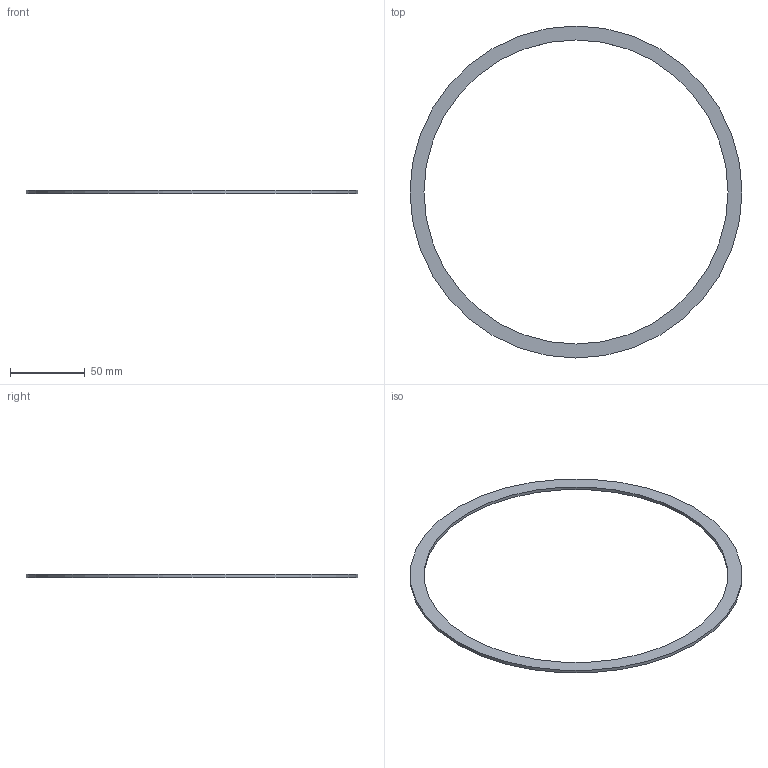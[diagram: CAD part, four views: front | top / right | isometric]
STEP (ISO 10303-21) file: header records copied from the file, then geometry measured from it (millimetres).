
FILE_DESCRIPTION((''),'2;1');
FILE_NAME('W:\13785_CF_Global_Fit_Umsetzung\227_Copper_Gasket\M213-456.stp','2010-09-01T15:38:12',('KAA'),(''),'Autodesk Inventor 2011','Autodesk Inventor 2011','');
FILE_SCHEMA(('AUTOMOTIVE_DESIGN { 1 0 10303 214 1 1 1 1 }'));
Length unit declared in the file: millimetre
Products named in the file (1): 213-456
Bounding box: 222.05 x 222.05 x 2.1 mm (x, y, z)
Volume: 13086.9 mm3; surface area: 15270.5 mm2
Topology: 1 solids, 1 shells, 4 faces, 6 edges, 4 vertices
Faces by surface type: cylinder 2, plane 2
Full cylindrical faces by diameter (mm): 203.4 x1, 222.05 x1
Entity records: 114 total; most frequent: DIRECTION 18, CARTESIAN_POINT 13, AXIS2_PLACEMENT_3D 9, ORIENTED_EDGE 8, EDGE_LOOP 8, VERTEX_POINT 4, CIRCLE 4, EDGE_CURVE 4
